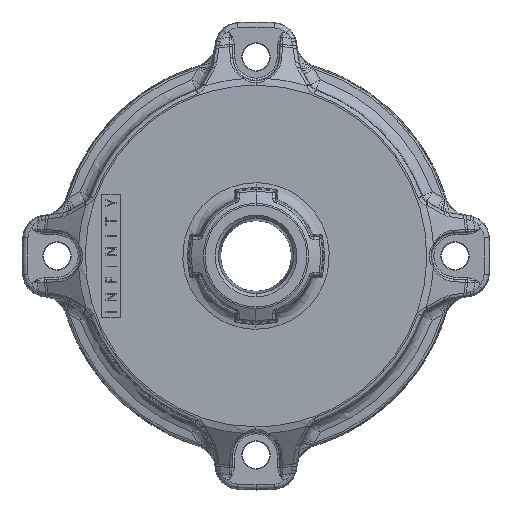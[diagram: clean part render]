
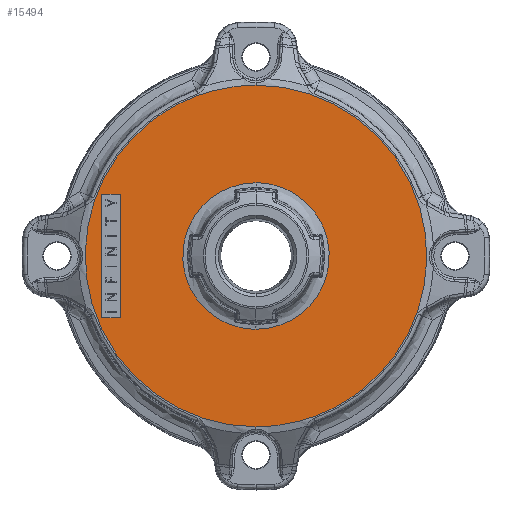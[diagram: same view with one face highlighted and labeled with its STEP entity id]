
A CAD part, left-side view. The second image highlights one B-rep face of the part: STEP entity #15494.
In plain terms, the highlighted planar face has unit normal (-1, 0, 0).
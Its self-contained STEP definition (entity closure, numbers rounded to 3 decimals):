
#36 = LINE ( 'NONE', #13539, #27621 ) ;
#402 = CARTESIAN_POINT ( 'NONE',  ( -20.1, 42.131, 19.11 ) ) ;
#474 = VERTEX_POINT ( 'NONE', #4501 ) ;
#719 = VERTEX_POINT ( 'NONE', #402 ) ;
#1131 = VERTEX_POINT ( 'NONE', #43686 ) ;
#1800 = CARTESIAN_POINT ( 'NONE',  ( -20.1, 0., 53.031 ) ) ;
#2329 = EDGE_CURVE ( 'NONE', #44747, #44113, #21720, .T. ) ;
#2687 = DIRECTION ( 'NONE',  ( 0., 1., 0. ) ) ;
#2726 = EDGE_LOOP ( 'NONE', ( #17154, #17642 ) ) ;
#3568 = CARTESIAN_POINT ( 'NONE',  ( -20.1, 0., 22.736 ) ) ;
#3625 = CARTESIAN_POINT ( 'NONE',  ( -20.1, 0., -22.736 ) ) ;
#3834 = CARTESIAN_POINT ( 'NONE',  ( -20.1, -45.472, 22.736 ) ) ;
#4083 = CARTESIAN_POINT ( 'NONE',  ( -20.1, -45.472, -22.736 ) ) ;
#4501 = CARTESIAN_POINT ( 'NONE',  ( -20.1, 42.131, -19.112 ) ) ;
#6446 = CARTESIAN_POINT ( 'NONE',  ( -20.1, 45.472, -22.736 ) ) ;
#8268 = VECTOR ( 'NONE', #18662, 1000. ) ;
#8452 =( BOUNDED_CURVE ( )  B_SPLINE_CURVE ( 3, ( #46216, #46048, #6446, #31731 ),
 .UNSPECIFIED., .F., .F. ) 
 B_SPLINE_CURVE_WITH_KNOTS ( ( 4, 4 ),
 ( 0., 1. ),
 .UNSPECIFIED. ) 
 CURVE ( )  GEOMETRIC_REPRESENTATION_ITEM ( )  RATIONAL_B_SPLINE_CURVE ( ( 0.958, 0.319, 0.319, 0.958 ) ) 
 REPRESENTATION_ITEM ( '' )  );
#8572 = CARTESIAN_POINT ( 'NONE',  ( -20.1, 0., 22.736 ) ) ;
#8886 = CARTESIAN_POINT ( 'NONE',  ( -20.1, 0., -19.112 ) ) ;
#10584 = EDGE_LOOP ( 'NONE', ( #16620, #17071 ) ) ;
#10876 =( BOUNDED_CURVE ( )  B_SPLINE_CURVE ( 3, ( #41566, #19708, #23270, #1800 ),
 .UNSPECIFIED., .F., .F. ) 
 B_SPLINE_CURVE_WITH_KNOTS ( ( 4, 4 ),
 ( 0., 1. ),
 .UNSPECIFIED. ) 
 CURVE ( )  GEOMETRIC_REPRESENTATION_ITEM ( )  RATIONAL_B_SPLINE_CURVE ( ( 0.981, 0.327, 0.327, 0.981 ) ) 
 REPRESENTATION_ITEM ( '' )  );
#10997 =( BOUNDED_CURVE ( )  B_SPLINE_CURVE ( 3, ( #33949, #45176, #19840, #45324 ),
 .UNSPECIFIED., .F., .F. ) 
 B_SPLINE_CURVE_WITH_KNOTS ( ( 4, 4 ),
 ( 0., 1. ),
 .UNSPECIFIED. ) 
 CURVE ( )  GEOMETRIC_REPRESENTATION_ITEM ( )  RATIONAL_B_SPLINE_CURVE ( ( 0.981, 0.327, 0.327, 0.981 ) ) 
 REPRESENTATION_ITEM ( '' )  );
#11382 = CARTESIAN_POINT ( 'NONE',  ( -20.1, 42.131, 0. ) ) ;
#11640 = LINE ( 'NONE', #46956, #28590 ) ;
#12536 = DIRECTION ( 'NONE',  ( 0., -1., 0. ) ) ;
#13470 = CARTESIAN_POINT ( 'NONE',  ( -20.1, 0., 53.031 ) ) ;
#13539 = CARTESIAN_POINT ( 'NONE',  ( -20.1, 0., 19.11 ) ) ;
#15460 = ORIENTED_EDGE ( 'NONE', *, *, #39799, .F. ) ;
#15494 = ADVANCED_FACE ( 'NONE', ( #16321, #46357, #45240 ), #20665, .F. ) ;
#15957 = ORIENTED_EDGE ( 'NONE', *, *, #28340, .F. ) ;
#16088 = ORIENTED_EDGE ( 'NONE', *, *, #39947, .F. ) ;
#16321 = FACE_BOUND ( 'NONE', #44681, .T. ) ;
#16539 = ORIENTED_EDGE ( 'NONE', *, *, #24802, .F. ) ;
#16620 = ORIENTED_EDGE ( 'NONE', *, *, #2329, .F. ) ;
#16666 = VERTEX_POINT ( 'NONE', #13470 ) ;
#17071 = ORIENTED_EDGE ( 'NONE', *, *, #28349, .F. ) ;
#17154 = ORIENTED_EDGE ( 'NONE', *, *, #31100, .F. ) ;
#17642 = ORIENTED_EDGE ( 'NONE', *, *, #31106, .F. ) ;
#18662 = DIRECTION ( 'NONE',  ( 0., 0., 1. ) ) ;
#19708 = CARTESIAN_POINT ( 'NONE',  ( -20.1, 106.061, -53.031 ) ) ;
#19840 = CARTESIAN_POINT ( 'NONE',  ( -20.1, -106.061, -53.031 ) ) ;
#20607 = DIRECTION ( 'NONE',  ( 0., 0., -1. ) ) ;
#20665 = PLANE ( 'NONE',  #23854 ) ;
#21599 = CARTESIAN_POINT ( 'NONE',  ( -20.1, 0., -22.736 ) ) ;
#21720 =( BOUNDED_CURVE ( )  B_SPLINE_CURVE ( 3, ( #3625, #4083, #3834, #3568 ),
 .UNSPECIFIED., .F., .T. ) 
 B_SPLINE_CURVE_WITH_KNOTS ( ( 4, 4 ),
 ( 0., 1. ),
 .UNSPECIFIED. ) 
 CURVE ( )  GEOMETRIC_REPRESENTATION_ITEM ( )  RATIONAL_B_SPLINE_CURVE ( ( 0.958, 0.319, 0.319, 0.958 ) ) 
 REPRESENTATION_ITEM ( '' )  );
#22487 = CARTESIAN_POINT ( 'NONE',  ( -20.1, -53.667, 53.667 ) ) ;
#22649 = DIRECTION ( 'NONE',  ( 1., 0., 0. ) ) ;
#23270 = CARTESIAN_POINT ( 'NONE',  ( -20.1, 106.061, 53.031 ) ) ;
#23854 = AXIS2_PLACEMENT_3D ( 'NONE', #22487, #22649, #20607 ) ;
#24802 = EDGE_CURVE ( 'NONE', #1131, #474, #46030, .T. ) ;
#26639 = VECTOR ( 'NONE', #12536, 1000. ) ;
#27621 = VECTOR ( 'NONE', #2687, 1000. ) ;
#28340 = EDGE_CURVE ( 'NONE', #719, #44379, #36, .T. ) ;
#28349 = EDGE_CURVE ( 'NONE', #44113, #44747, #8452, .T. ) ;
#28590 = VECTOR ( 'NONE', #28782, 1000. ) ;
#28782 = DIRECTION ( 'NONE',  ( 0., 0., -1. ) ) ;
#30426 = VERTEX_POINT ( 'NONE', #34219 ) ;
#31100 = EDGE_CURVE ( 'NONE', #30426, #16666, #10876, .T. ) ;
#31106 = EDGE_CURVE ( 'NONE', #16666, #30426, #10997, .T. ) ;
#31731 = CARTESIAN_POINT ( 'NONE',  ( -20.1, 0., -22.736 ) ) ;
#33949 = CARTESIAN_POINT ( 'NONE',  ( -20.1, 0., 53.031 ) ) ;
#34219 = CARTESIAN_POINT ( 'NONE',  ( -20.1, 0., -53.031 ) ) ;
#35511 = CARTESIAN_POINT ( 'NONE',  ( -20.1, 47.931, 19.11 ) ) ;
#36099 = LINE ( 'NONE', #11382, #8268 ) ;
#39799 = EDGE_CURVE ( 'NONE', #44379, #1131, #11640, .T. ) ;
#39947 = EDGE_CURVE ( 'NONE', #474, #719, #36099, .T. ) ;
#41566 = CARTESIAN_POINT ( 'NONE',  ( -20.1, 0., -53.031 ) ) ;
#43686 = CARTESIAN_POINT ( 'NONE',  ( -20.1, 47.931, -19.112 ) ) ;
#44113 = VERTEX_POINT ( 'NONE', #8572 ) ;
#44379 = VERTEX_POINT ( 'NONE', #35511 ) ;
#44681 = EDGE_LOOP ( 'NONE', ( #15460, #15957, #16088, #16539 ) ) ;
#44747 = VERTEX_POINT ( 'NONE', #21599 ) ;
#45176 = CARTESIAN_POINT ( 'NONE',  ( -20.1, -106.061, 53.031 ) ) ;
#45240 = FACE_OUTER_BOUND ( 'NONE', #2726, .T. ) ;
#45324 = CARTESIAN_POINT ( 'NONE',  ( -20.1, 0., -53.031 ) ) ;
#46030 = LINE ( 'NONE', #8886, #26639 ) ;
#46048 = CARTESIAN_POINT ( 'NONE',  ( -20.1, 45.472, 22.736 ) ) ;
#46216 = CARTESIAN_POINT ( 'NONE',  ( -20.1, 0., 22.736 ) ) ;
#46357 = FACE_BOUND ( 'NONE', #10584, .T. ) ;
#46956 = CARTESIAN_POINT ( 'NONE',  ( -20.1, 47.931, 0. ) ) ;
